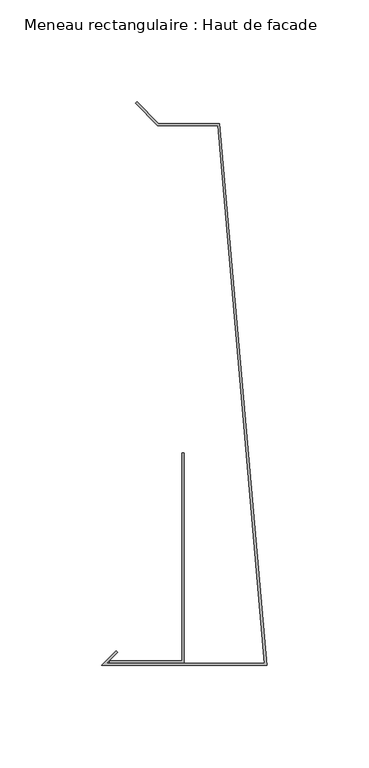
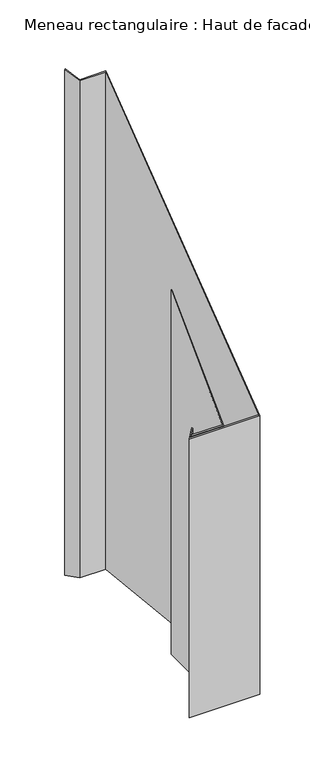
"""IFC4 building model written with IfcOpenShell, lengths in millimetres: member geometry, Meneau rectangulaire : Haut de facade."""

from ifc_helpers import new_model, si_unit, origin, place, context, project, spatial, faceted_brep, source, transform, mapped, element, save


def meneau_rectangulaire_haut_de_facade_f07aff2c(model_context):
    return source(origin(), model_context, "Body", "Brep", [
        faceted_brep([(-24.0647895, 160.703755, -443.0), (-53.5626719, 160.703755, -443.0), (-64.4621669, 171.6032499, -443.0), (-63.7550601, 172.3103567, -443.0), (-53.1484584, 161.703755, -443.0), (-23.1484584, 161.703755, -443.0), (0.0, -104.2, -443.0), (-81.0, -104.2, -443.0), (-73.9289322, -97.1289322, -443.0), (-73.2218254, -97.836039, -443.0), (-78.5857864, -103.2, -443.0), (-1.0913085, -103.2, -443.0), (-1.0913085, -103.2, -103.2), (-24.0647895, 160.703755, 160.703755), (-78.5857864, -103.2, -103.2), (-73.2218254, -97.836039, -97.836039), (-73.9289322, -97.1289322, -97.1289322), (-81.0, -104.2, -104.2), (0.0, -104.2, -104.2), (-23.1484584, 161.703755, 161.703755), (-53.1484584, 161.703755, 161.703755), (-63.7550601, 172.3103567, 172.3103567), (-64.4621669, 171.6032499, 171.6032499), (-53.5626719, 160.703755, 160.703755)], [[[0, 1, 2, 3, 4, 5, 6, 7, 8, 9, 10, 11]], [[12, 13, 0, 11]], [[14, 12, 11, 10]], [[15, 14, 10, 9]], [[16, 15, 9, 8]], [[17, 16, 8, 7]], [[18, 17, 7, 6]], [[19, 18, 6, 5]], [[20, 19, 5, 4]], [[21, 20, 4, 3]], [[22, 21, 3, 2]], [[23, 22, 2, 1]], [[13, 23, 1, 0]], [[13, 12, 14, 15, 16, 17, 18, 19, 20, 21, 22, 23]]]),
        faceted_brep([(-40.5477541, -102.9846816, -443.0), (-77.0752814, -102.9846816, -443.0), (-77.0752814, -101.9846816, -443.0), (-41.5477541, -101.9846816, -443.0), (-41.5477541, -0.0384227, -443.0), (-40.5477541, -0.0384227, -443.0), (-40.5477541, -0.0384227, -0.0384227), (-40.5477541, -102.9846816, -102.9846816), (-41.5477541, -0.0384227, -0.0384227), (-41.5477541, -101.9846816, -101.9846816), (-77.0752814, -101.9846816, -101.9846816), (-77.0752814, -102.9846816, -102.9846816)], [[[0, 1, 2, 3, 4, 5]], [[6, 7, 0, 5]], [[8, 6, 5, 4]], [[9, 8, 4, 3]], [[10, 9, 3, 2]], [[11, 10, 2, 1]], [[7, 11, 1, 0]], [[7, 6, 8, 9, 10, 11]]]),
    ])


if __name__ == "__main__":
    model = new_model("IFC4")
    model_context = context("Model", 3, world=origin())
    ifc_project = project(units=[si_unit("LENGTHUNIT", "METRE", prefix="MILLI")], contexts=[model_context])
    site = spatial("IfcSite", under=ifc_project)
    building = spatial("IfcBuilding", under=site)
    placement = place(None, origin())
    meneau_rectangulaire_haut_de_facade_shape = meneau_rectangulaire_haut_de_facade_f07aff2c(model_context)
    element("IfcMember", 1, ObjectType="Meneau rectangulaire : Haut de facade", at=placement, inside=building, context=model_context, shape_type="MappedRepresentation", body=[
        mapped(meneau_rectangulaire_haut_de_facade_shape, transform((0.0, 0.0, 0.0), x_axis=(1.0, 0.0, 0.0), y_axis=(0.0, 1.0, 0.0), z_axis=(0.0, 0.0, 1.0))),
    ])
    save(model, "model.ifc")
